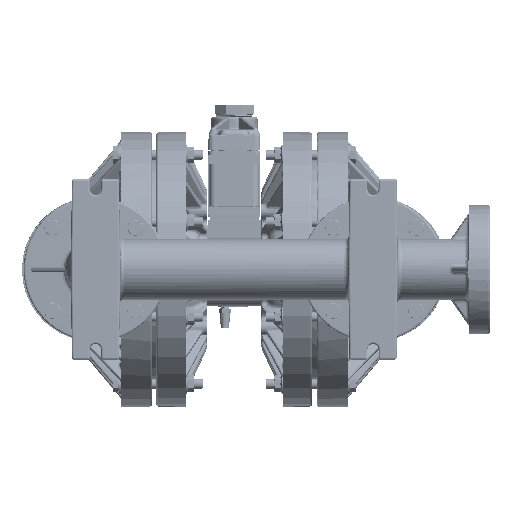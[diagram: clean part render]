
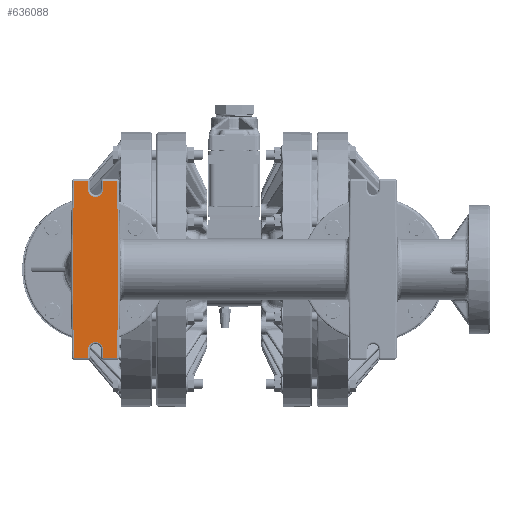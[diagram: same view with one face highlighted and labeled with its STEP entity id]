
A CAD part, front view. The second image highlights one B-rep face of the part: STEP entity #636088.
In plain terms, the highlighted planar face has unit normal (0, -1, 0).
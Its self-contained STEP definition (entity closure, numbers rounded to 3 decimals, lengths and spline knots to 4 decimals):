
#3002 = DIRECTION ( 'NONE',  ( -0.013, 0., 1. ) ) ;
#34790 = VERTEX_POINT ( 'NONE', #504558 ) ;
#37054 = EDGE_CURVE ( 'NONE', #663361, #213312, #314191, .T. ) ;
#51375 = EDGE_CURVE ( 'NONE', #155377, #693285, #630294, .T. ) ;
#53203 = CARTESIAN_POINT ( 'NONE',  ( -7.38, -15.12, -4.04 ) ) ;
#71028 = ORIENTED_EDGE ( 'NONE', *, *, #190704, .F. ) ;
#74486 = ORIENTED_EDGE ( 'NONE', *, *, #143511, .F. ) ;
#81326 = LINE ( 'NONE', #843607, #280442 ) ;
#91731 = DIRECTION ( 'NONE',  ( 0., 0., 1. ) ) ;
#94030 = EDGE_CURVE ( 'NONE', #419365, #247213, #122497, .T. ) ;
#95313 = CARTESIAN_POINT ( 'NONE',  ( -8.0917, -15.12, 4.45 ) ) ;
#105047 = VECTOR ( 'NONE', #571291, 39.3701 ) ;
#122497 = LINE ( 'NONE', #53203, #642144 ) ;
#140289 = DIRECTION ( 'NONE',  ( 0., -1., 0. ) ) ;
#143511 = EDGE_CURVE ( 'NONE', #279608, #389818, #637063, .T. ) ;
#143785 = ORIENTED_EDGE ( 'NONE', *, *, #94030, .F. ) ;
#144796 = CARTESIAN_POINT ( 'NONE',  ( -8.15, -15.12, 0. ) ) ;
#149349 = PLANE ( 'NONE',  #168311 ) ;
#155377 = VERTEX_POINT ( 'NONE', #902254 ) ;
#166480 = CARTESIAN_POINT ( 'NONE',  ( -6.62, -15.12, 4.04 ) ) ;
#168311 = AXIS2_PLACEMENT_3D ( 'NONE', #625340, #140289, #422014 ) ;
#171387 = LINE ( 'NONE', #877991, #205597 ) ;
#176602 = CARTESIAN_POINT ( 'NONE',  ( -5.9083, -15.12, 4.45 ) ) ;
#188760 = LINE ( 'NONE', #461332, #567772 ) ;
#190704 = EDGE_CURVE ( 'NONE', #247213, #525151, #171387, .T. ) ;
#199945 = EDGE_CURVE ( 'NONE', #379797, #798710, #188760, .T. ) ;
#204921 = ORIENTED_EDGE ( 'NONE', *, *, #290224, .F. ) ;
#205597 = VECTOR ( 'NONE', #734831, 39.3701 ) ;
#209429 = DIRECTION ( 'NONE',  ( 0., -1., 0. ) ) ;
#211417 = DIRECTION ( 'NONE',  ( -1., 0., 0. ) ) ;
#213312 = VERTEX_POINT ( 'NONE', #740659 ) ;
#219262 = CIRCLE ( 'NONE', #749958, 0.38 ) ;
#228827 = VECTOR ( 'NONE', #660632, 39.3701 ) ;
#231422 = LINE ( 'NONE', #296205, #874642 ) ;
#240030 = EDGE_CURVE ( 'NONE', #693285, #279608, #493089, .T. ) ;
#241223 = EDGE_CURVE ( 'NONE', #389818, #419365, #527519, .T. ) ;
#247213 = VERTEX_POINT ( 'NONE', #593504 ) ;
#250461 = LINE ( 'NONE', #176602, #289012 ) ;
#256834 = CARTESIAN_POINT ( 'NONE',  ( -6.62, -15.12, 4.04 ) ) ;
#257958 = LINE ( 'NONE', #664622, #631360 ) ;
#272799 = VECTOR ( 'NONE', #91731, 39.3701 ) ;
#274359 = FACE_OUTER_BOUND ( 'NONE', #458331, .T. ) ;
#277071 = CARTESIAN_POINT ( 'NONE',  ( -5.9083, -15.12, 4.45 ) ) ;
#279608 = VERTEX_POINT ( 'NONE', #728708 ) ;
#280442 = VECTOR ( 'NONE', #3002, 39.3701 ) ;
#289012 = VECTOR ( 'NONE', #518487, 39.3701 ) ;
#290224 = EDGE_CURVE ( 'NONE', #213312, #641700, #231422, .T. ) ;
#295647 = CARTESIAN_POINT ( 'NONE',  ( -6.62, -15.12, -4.04 ) ) ;
#296205 = CARTESIAN_POINT ( 'NONE',  ( -6.62, -15.12, 4.45 ) ) ;
#297610 = ORIENTED_EDGE ( 'NONE', *, *, #37054, .F. ) ;
#305382 = CARTESIAN_POINT ( 'NONE',  ( -8.0917, -15.12, -4.45 ) ) ;
#307931 = VERTEX_POINT ( 'NONE', #422191 ) ;
#313596 = DIRECTION ( 'NONE',  ( 0., 0., -1. ) ) ;
#314191 = LINE ( 'NONE', #166480, #228827 ) ;
#329766 = CARTESIAN_POINT ( 'NONE',  ( -7., -15.12, 4.04 ) ) ;
#335008 = VECTOR ( 'NONE', #211417, 39.3701 ) ;
#342892 = EDGE_CURVE ( 'NONE', #525151, #379797, #81326, .T. ) ;
#349964 = CARTESIAN_POINT ( 'NONE',  ( -5.9083, -15.12, -4.45 ) ) ;
#364920 = ORIENTED_EDGE ( 'NONE', *, *, #826014, .F. ) ;
#368879 = CARTESIAN_POINT ( 'NONE',  ( -6.62, -15.12, -4.45 ) ) ;
#374387 = CARTESIAN_POINT ( 'NONE',  ( -7.38, -15.12, -4.04 ) ) ;
#379797 = VERTEX_POINT ( 'NONE', #144796 ) ;
#389818 = VERTEX_POINT ( 'NONE', #295647 ) ;
#395673 = VECTOR ( 'NONE', #634853, 39.3701 ) ;
#398916 = EDGE_CURVE ( 'NONE', #307931, #34790, #257958, .T. ) ;
#400237 = EDGE_CURVE ( 'NONE', #34790, #663361, #219262, .T. ) ;
#419365 = VERTEX_POINT ( 'NONE', #374387 ) ;
#422014 = DIRECTION ( 'NONE',  ( 0., 0., -1. ) ) ;
#422191 = CARTESIAN_POINT ( 'NONE',  ( -7.38, -15.12, 4.45 ) ) ;
#458331 = EDGE_LOOP ( 'NONE', ( #579786, #552895, #204921, #297610, #803915, #807081, #364920, #762490, #856103, #71028, #143785, #680711, #74486, #866225 ) ) ;
#461332 = CARTESIAN_POINT ( 'NONE',  ( -8.15, -15.12, 0. ) ) ;
#477878 = DIRECTION ( 'NONE',  ( 0., -1., 0. ) ) ;
#493089 = LINE ( 'NONE', #349964, #335008 ) ;
#504558 = CARTESIAN_POINT ( 'NONE',  ( -7.38, -15.12, 4.04 ) ) ;
#515616 = LINE ( 'NONE', #95313, #105047 ) ;
#518487 = DIRECTION ( 'NONE',  ( 0.013, 0., -1. ) ) ;
#525151 = VERTEX_POINT ( 'NONE', #305382 ) ;
#527519 = CIRCLE ( 'NONE', #660002, 0.38 ) ;
#552895 = ORIENTED_EDGE ( 'NONE', *, *, #724851, .F. ) ;
#556284 = DIRECTION ( 'NONE',  ( 1., 0., 0. ) ) ;
#567772 = VECTOR ( 'NONE', #756731, 39.3701 ) ;
#571291 = DIRECTION ( 'NONE',  ( 1., 0., 0. ) ) ;
#579786 = ORIENTED_EDGE ( 'NONE', *, *, #51375, .F. ) ;
#593504 = CARTESIAN_POINT ( 'NONE',  ( -7.38, -15.12, -4.45 ) ) ;
#616641 = DIRECTION ( 'NONE',  ( 0., 0., -1. ) ) ;
#625340 = CARTESIAN_POINT ( 'NONE',  ( -5.75, -15.12, 4.55 ) ) ;
#630294 = LINE ( 'NONE', #912046, #395673 ) ;
#631360 = VECTOR ( 'NONE', #313596, 39.3701 ) ;
#634853 = DIRECTION ( 'NONE',  ( -0.013, 0., -1. ) ) ;
#635669 = CARTESIAN_POINT ( 'NONE',  ( -8.0917, -15.12, 4.45 ) ) ;
#636088 = ADVANCED_FACE ( 'NONE', ( #274359 ), #149349, .T. ) ;
#637063 = LINE ( 'NONE', #368879, #272799 ) ;
#641700 = VERTEX_POINT ( 'NONE', #277071 ) ;
#642144 = VECTOR ( 'NONE', #616641, 39.3701 ) ;
#660002 = AXIS2_PLACEMENT_3D ( 'NONE', #907372, #477878, #556284 ) ;
#660632 = DIRECTION ( 'NONE',  ( 0., 0., 1. ) ) ;
#663361 = VERTEX_POINT ( 'NONE', #256834 ) ;
#664622 = CARTESIAN_POINT ( 'NONE',  ( -7.38, -15.12, 4.45 ) ) ;
#680711 = ORIENTED_EDGE ( 'NONE', *, *, #241223, .F. ) ;
#693285 = VERTEX_POINT ( 'NONE', #833472 ) ;
#724851 = EDGE_CURVE ( 'NONE', #641700, #155377, #250461, .T. ) ;
#728708 = CARTESIAN_POINT ( 'NONE',  ( -6.62, -15.12, -4.45 ) ) ;
#734831 = DIRECTION ( 'NONE',  ( -1., 0., 0. ) ) ;
#740659 = CARTESIAN_POINT ( 'NONE',  ( -6.62, -15.12, 4.45 ) ) ;
#749958 = AXIS2_PLACEMENT_3D ( 'NONE', #329766, #209429, #768297 ) ;
#756731 = DIRECTION ( 'NONE',  ( 0.013, 0., 1. ) ) ;
#762490 = ORIENTED_EDGE ( 'NONE', *, *, #199945, .F. ) ;
#768297 = DIRECTION ( 'NONE',  ( -1., 0., 0. ) ) ;
#798710 = VERTEX_POINT ( 'NONE', #635669 ) ;
#803915 = ORIENTED_EDGE ( 'NONE', *, *, #400237, .F. ) ;
#807081 = ORIENTED_EDGE ( 'NONE', *, *, #398916, .F. ) ;
#826014 = EDGE_CURVE ( 'NONE', #798710, #307931, #515616, .T. ) ;
#833472 = CARTESIAN_POINT ( 'NONE',  ( -5.9083, -15.12, -4.45 ) ) ;
#843607 = CARTESIAN_POINT ( 'NONE',  ( -8.0917, -15.12, -4.45 ) ) ;
#856103 = ORIENTED_EDGE ( 'NONE', *, *, #342892, .F. ) ;
#859607 = DIRECTION ( 'NONE',  ( 1., 0., 0. ) ) ;
#866225 = ORIENTED_EDGE ( 'NONE', *, *, #240030, .F. ) ;
#874642 = VECTOR ( 'NONE', #859607, 39.3701 ) ;
#877991 = CARTESIAN_POINT ( 'NONE',  ( -7.38, -15.12, -4.45 ) ) ;
#902254 = CARTESIAN_POINT ( 'NONE',  ( -5.85, -15.12, 0. ) ) ;
#907372 = CARTESIAN_POINT ( 'NONE',  ( -7., -15.12, -4.04 ) ) ;
#912046 = CARTESIAN_POINT ( 'NONE',  ( -5.85, -15.12, 0. ) ) ;
